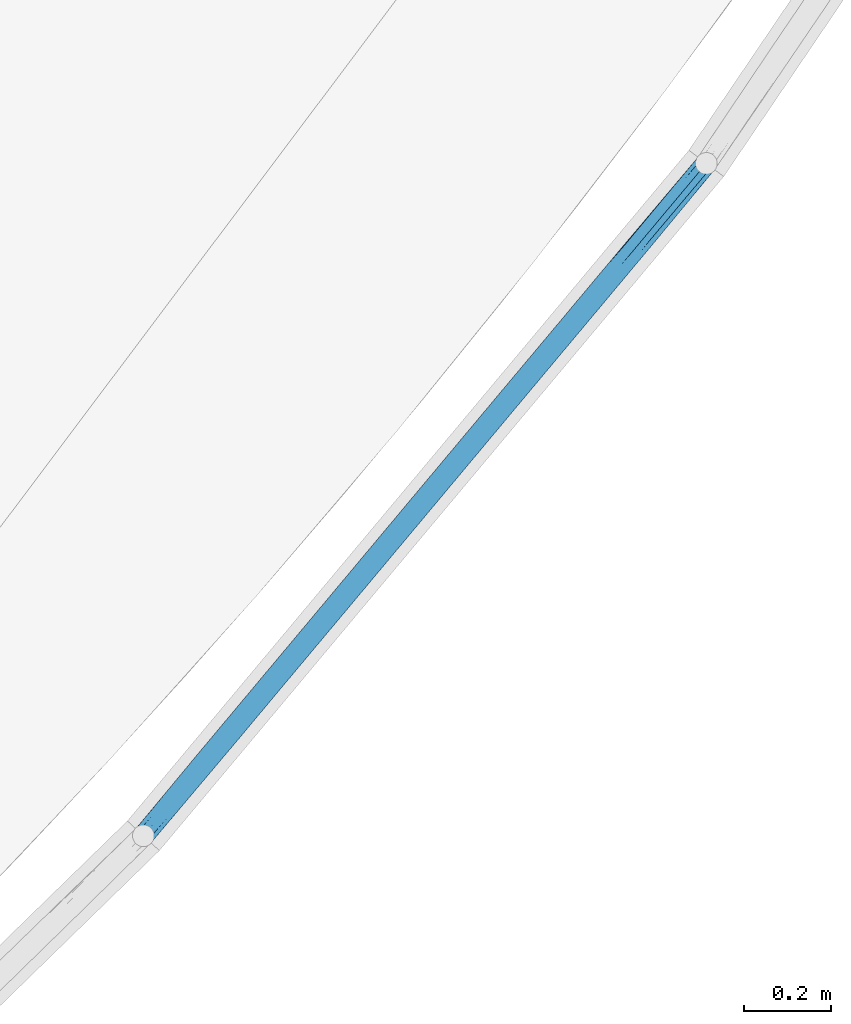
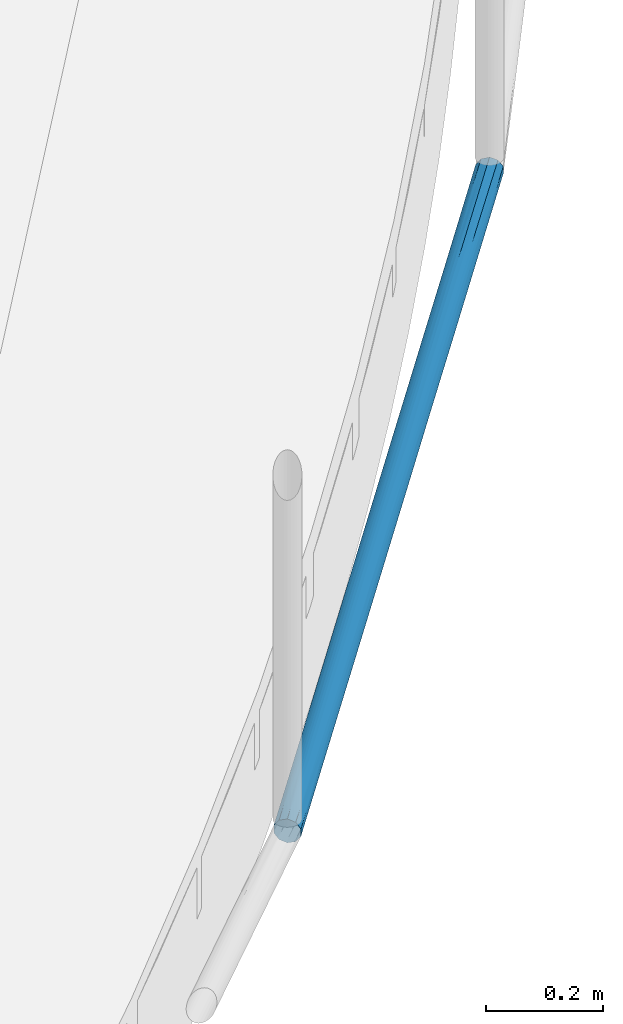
# One storey, part 26 of 33: 1 member, 1 element without a shape of its own.
"""IFC2X3 building model written with IfcOpenShell, lengths in metres."""

from ifc_helpers import new_model, entity, si_unit, converted_unit, derived_unit, direction, frame, origin, place, context, subcontext, project, spatial, faceted_brep, source, transform, mapped, material, type_object, type_shapes, element, aggregate, save


model = new_model("IFC2X3")

# Units and contexts
model_context = context("Model", 3, precision=1e-05, world=origin(), true_north=direction((6.123031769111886e-17, 1.0)))
body_context = subcontext(model_context, "Body", "Model", "MODEL_VIEW")
ifc_project = project(units=[si_unit("LENGTHUNIT", "METRE"), si_unit("AREAUNIT", "SQUARE_METRE"), si_unit("VOLUMEUNIT", "CUBIC_METRE"), converted_unit("PLANEANGLEUNIT", "DEGREE", entity("IfcRatioMeasure", 0.017453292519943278), si_unit("PLANEANGLEUNIT", "RADIAN"), dimensions=[0, 0, 0, 0, 0, 0, 0]), si_unit("MASSUNIT", "GRAM", prefix="KILO"), derived_unit("MASSDENSITYUNIT", [(si_unit("MASSUNIT", "GRAM", prefix="KILO"), 1), (si_unit("LENGTHUNIT", "METRE"), -3)]), derived_unit("IONCONCENTRATIONUNIT", [(si_unit("MASSUNIT", "GRAM", prefix="KILO"), 1), (si_unit("LENGTHUNIT", "METRE"), -3)]), derived_unit("MOMENTOFINERTIAUNIT", [(si_unit("LENGTHUNIT", "METRE"), 4)]), si_unit("TIMEUNIT", "SECOND"), si_unit("FREQUENCYUNIT", "HERTZ"), si_unit("THERMODYNAMICTEMPERATUREUNIT", "DEGREE_CELSIUS"), derived_unit("THERMALTRANSMITTANCEUNIT", [(si_unit("MASSUNIT", "GRAM", prefix="KILO"), 1), (si_unit("THERMODYNAMICTEMPERATUREUNIT", "KELVIN"), -1), (si_unit("TIMEUNIT", "SECOND"), -3)]), derived_unit("THERMALCONDUCTANCEUNIT", [(si_unit("MASSUNIT", "GRAM", prefix="KILO"), 1), (si_unit("THERMODYNAMICTEMPERATUREUNIT", "KELVIN"), -1), (si_unit("TIMEUNIT", "SECOND"), -3), (si_unit("LENGTHUNIT", "METRE"), 1)]), derived_unit("VOLUMETRICFLOWRATEUNIT", [(si_unit("LENGTHUNIT", "METRE"), 3), (si_unit("TIMEUNIT", "SECOND"), -1)]), derived_unit("MASSFLOWRATEUNIT", [(si_unit("MASSUNIT", "GRAM", prefix="KILO"), 1), (si_unit("TIMEUNIT", "SECOND"), -1)]), derived_unit("ROTATIONALFREQUENCYUNIT", [(si_unit("TIMEUNIT", "SECOND"), -1)]), si_unit("ELECTRICCURRENTUNIT", "AMPERE"), si_unit("ELECTRICVOLTAGEUNIT", "VOLT"), si_unit("POWERUNIT", "WATT"), si_unit("FORCEUNIT", "NEWTON", prefix="KILO"), si_unit("ILLUMINANCEUNIT", "LUX"), si_unit("LUMINOUSFLUXUNIT", "LUMEN"), si_unit("LUMINOUSINTENSITYUNIT", "CANDELA"), derived_unit("USERDEFINED", [(si_unit("MASSUNIT", "GRAM", prefix="KILO"), -1), (si_unit("LENGTHUNIT", "METRE"), -2), (si_unit("TIMEUNIT", "SECOND"), 3), (si_unit("LUMINOUSFLUXUNIT", "LUMEN"), 1)]), derived_unit("USERDEFINED", [(si_unit("MASSUNIT", "GRAM", prefix="KILO"), 1), (si_unit("TIMEUNIT", "SECOND"), -3), (si_unit("LENGTHUNIT", "METRE"), 3), (si_unit("ELECTRICCURRENTUNIT", "AMPERE"), -2)]), derived_unit("SOUNDPOWERUNIT", [(si_unit("MASSUNIT", "GRAM", prefix="KILO"), 1), (si_unit("TIMEUNIT", "SECOND"), -3), (si_unit("LENGTHUNIT", "METRE"), 2)]), derived_unit("SOUNDPRESSUREUNIT", [(si_unit("MASSUNIT", "GRAM", prefix="KILO"), 1), (si_unit("LENGTHUNIT", "METRE"), -1), (si_unit("TIMEUNIT", "SECOND"), -2)]), derived_unit("LINEARVELOCITYUNIT", [(si_unit("LENGTHUNIT", "METRE"), 1), (si_unit("TIMEUNIT", "SECOND"), -1)]), si_unit("PRESSUREUNIT", "PASCAL"), derived_unit("USERDEFINED", [(si_unit("MASSUNIT", "GRAM", prefix="KILO"), 1), (si_unit("LENGTHUNIT", "METRE"), -2), (si_unit("TIMEUNIT", "SECOND"), -2)]), derived_unit("LINEARFORCEUNIT", [(si_unit("MASSUNIT", "GRAM", prefix="KILO"), 1), (si_unit("TIMEUNIT", "SECOND"), -2)]), derived_unit("PLANARFORCEUNIT", [(si_unit("MASSUNIT", "GRAM", prefix="KILO"), 1), (si_unit("LENGTHUNIT", "METRE"), -1), (si_unit("TIMEUNIT", "SECOND"), -2)]), derived_unit("SPECIFICHEATCAPACITYUNIT", [(si_unit("THERMODYNAMICTEMPERATUREUNIT", "KELVIN"), -1), (si_unit("LENGTHUNIT", "METRE"), 2), (si_unit("TIMEUNIT", "SECOND"), -2)]), derived_unit("HEATINGVALUEUNIT", [(si_unit("LENGTHUNIT", "METRE"), 2), (si_unit("TIMEUNIT", "SECOND"), -2)]), derived_unit("VAPORPERMEABILITYUNIT", [(si_unit("LENGTHUNIT", "METRE"), -1), (si_unit("TIMEUNIT", "SECOND"), 1)]), derived_unit("DYNAMICVISCOSITYUNIT", [(si_unit("MASSUNIT", "GRAM", prefix="KILO"), 1), (si_unit("TIMEUNIT", "SECOND"), -1), (si_unit("LENGTHUNIT", "METRE"), -1)]), derived_unit("THERMALEXPANSIONCOEFFICIENTUNIT", [(si_unit("THERMODYNAMICTEMPERATUREUNIT", "KELVIN"), -1)]), derived_unit("MODULUSOFELASTICITYUNIT", [(si_unit("MASSUNIT", "GRAM", prefix="KILO"), 1), (si_unit("LENGTHUNIT", "METRE"), -1), (si_unit("TIMEUNIT", "SECOND"), -2)]), derived_unit("ISOTHERMALMOISTURECAPACITYUNIT", [(si_unit("LENGTHUNIT", "METRE"), 3), (si_unit("MASSUNIT", "GRAM", prefix="KILO"), -1)]), derived_unit("MOISTUREDIFFUSIVITYUNIT", [(si_unit("TIMEUNIT", "SECOND"), -1), (si_unit("LENGTHUNIT", "METRE"), 2)])], contexts=[model_context])

# Site, building, storey
site_placement = place(None, origin())
site = spatial("IfcSite", under=ifc_project, at=site_placement, Name="Superficie", CompositionType="ELEMENT")
building_placement = place(site_placement, frame((0.0, 0.0, 235.0), z_axis=(0.0, 0.0, 1.0), x_axis=(-0.7996477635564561, 0.6004693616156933, 0.0)))
building = spatial("IfcBuilding", under=site, at=building_placement, CompositionType="ELEMENT")
storey_placement = place(building_placement, origin())
storey = spatial("IfcBuildingStorey", under=building, at=storey_placement, Name="P0- Escola", CompositionType="ELEMENT", Elevation=0.0)

# Curtain wall, member
curtain_wall_type = type_object("IfcCurtainWallType", Name="Muro cortina:SER EXT- Tanca exterior", PredefinedType="NOTDEFINED")
curtain_wall_placement = place(storey_placement, origin())
curtain_wall = element("IfcCurtainWall", 1, at=curtain_wall_placement, inside=storey, type_object=curtain_wall_type, Name="Muro cortina:SER EXT- Tanca exterior", ObjectType="Muro cortina:SER EXT- Tanca exterior")
ifc_material = material(Name="Acero inoxidable")
member_type = type_object("IfcMemberType", Name="Montante circular:Perfil Tanca exterior", PredefinedType="MULLION", material=ifc_material)
shared_shape = source(origin(), body_context, "Body", "Brep", [
    faceted_brep([(-0.008847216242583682, 0.019081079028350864, -0.2267325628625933), (-0.010298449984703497, 0.020220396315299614, -0.493251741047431), (-0.013646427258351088, 0.022273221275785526, -0.24722914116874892), (-0.046386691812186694, 0.01294640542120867, -1.7763628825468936), (-0.044858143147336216, 0.01518730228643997, -1.5519656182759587), (-0.04268069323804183, 0.017674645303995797, -1.7624670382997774), (-0.03403860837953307, 0.023308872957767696, -1.3777322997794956), (-0.02783377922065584, 0.024838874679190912, -1.520863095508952), (-0.03409127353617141, 0.023288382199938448, -1.6958092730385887), (-0.028484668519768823, 0.02475595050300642, -1.2566667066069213), (-0.022081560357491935, 0.024829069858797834, -1.3632108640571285), (-0.01859319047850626, 0.02416511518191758, -1.1148496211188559), (-0.025000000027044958, 0.025, -1.0047328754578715), (-0.019090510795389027, 0.024291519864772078, -0.7889059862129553), (-0.028756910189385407, 0.024716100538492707, -0.5280420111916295), (-0.029397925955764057, 0.024610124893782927, -0.8002571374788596), (-0.03459637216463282, 0.023084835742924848, -0.6419632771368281), (-0.0004908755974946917, 0.004929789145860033, -0.7602768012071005), (0.0, 0.0, -0.5237549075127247), (0.0, 0.0, -0.6127839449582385), (0.0, 0.0, -0.6983405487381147), (-0.048129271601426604, 0.009488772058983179, -0.6764416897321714), (-0.04544032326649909, 0.014394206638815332, -0.7602698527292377), (-0.04768058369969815, 0.010516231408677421, -0.9082537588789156), (-0.004774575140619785, 0.014694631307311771, -2.0087200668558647), (-0.0028689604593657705, 0.011628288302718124, -1.7262049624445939), (-0.002582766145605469, 0.007948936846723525, -2.0090623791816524), (-0.014779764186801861, 0.02281549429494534, -0.924713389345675), (-0.014521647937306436, 0.022698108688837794, -0.711291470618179), (-0.010535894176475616, 0.020390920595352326, -0.8101259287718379), (-0.00731971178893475, 0.017675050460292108, -1.7954389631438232), (-0.01727457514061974, 0.023776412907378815, -2.0082592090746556), (-0.021089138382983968, 0.024692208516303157, -1.7119525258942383), (-0.01682191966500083, 0.02362454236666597, -1.8054782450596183), (-0.041018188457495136, 0.01919420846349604, -0.2562594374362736), (-0.04443479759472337, 0.015725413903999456, -0.2807873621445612), (-0.04522542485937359, 0.01469463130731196, -0.0007456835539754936), (-0.047131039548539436, 0.011628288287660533, -0.2832607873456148), (-0.04741723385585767, 0.007948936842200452, -0.0004033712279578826), (-0.00046455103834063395, 0.004797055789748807, -0.9733185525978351), (0.0, 0.0, -0.9619546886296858), (0.0, 0.0, -1.047511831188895), (-0.03868978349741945, 0.020918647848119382, -1.7251704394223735), (-0.0389754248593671, 0.019235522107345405, -2.00848963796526), (-0.04999999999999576, 0.0, -1.3111179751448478), (-0.04948618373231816, 0.005042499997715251, -1.259607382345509), (-0.0499999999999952, 0.0, -1.485702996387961), (-0.0018707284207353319, 0.009488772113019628, -1.3330240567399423), (-0.004463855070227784, 0.014257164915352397, -1.2402981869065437), (-0.002206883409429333, 0.010270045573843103, -1.101577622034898), (-0.03970155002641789, 0.020220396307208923, -1.5162140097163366), (-0.039108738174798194, 0.02063839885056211, -1.1929753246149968), (-0.011024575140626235, 0.019235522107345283, -0.0009761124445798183), (-0.0263505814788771, 0.024963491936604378, -0.27217032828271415), (-0.034540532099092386, 0.023107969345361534, -0.31665724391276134), (-0.032725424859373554, 0.023776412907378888, -0.0012065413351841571), (-0.0495543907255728, 0.004699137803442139, -1.0451808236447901), (-0.04453905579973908, 0.015595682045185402, -1.3022901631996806), (-0.017274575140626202, 0.023776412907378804, -0.001206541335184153), (-0.019693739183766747, 0.024430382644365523, -0.24490459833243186), (-0.038056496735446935, 0.021319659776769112, -0.9140673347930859), (-0.04153701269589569, 0.018749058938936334, -0.7147147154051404), (-0.024999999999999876, 0.02377641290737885, -0.001206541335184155), (-0.01540362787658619, 0.0230848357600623, -1.3675024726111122), (-0.02826658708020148, 0.024785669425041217, -1.7828225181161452), (-0.012047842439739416, 0.02138320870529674, -1.1183925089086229), (-0.008247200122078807, 0.018556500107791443, -1.2943112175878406), (-0.04947504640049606, 0.005096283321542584, -0.8345024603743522), (-0.04958403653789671, 0.004541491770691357, -0.6454396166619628), (-0.039028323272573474, 0.02069314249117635, -0.5000550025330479), (-0.049999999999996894, 0.0, -0.961947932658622), (-0.046712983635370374, 0.012391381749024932, -0.5006560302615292), (-0.04937917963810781, 0.0055367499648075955, -0.4595879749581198), (-0.049388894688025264, 0.005493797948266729, -0.21390989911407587), (-0.0436016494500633, 0.016702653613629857, -0.4756555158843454), (-0.049999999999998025, 0.0, -0.6127778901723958), (-0.04999999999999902, 0.0, -0.3063889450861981), (-0.05, 0.0, 0.0), (-0.048266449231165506, 0.009147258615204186, -1.1365396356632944), (-0.04604490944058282, 0.013494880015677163, -1.068064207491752), (-0.048350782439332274, 0.008929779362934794, -1.8259299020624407), (-0.048393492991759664, 0.008817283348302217, -1.6159233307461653), (-0.04999999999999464, 0.0, -1.6602880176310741), (-0.04962841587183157, 0.004294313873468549, -1.573002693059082), (-0.049595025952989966, 0.004481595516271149, -1.8126800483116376), (-0.0004899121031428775, 0.0049249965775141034, -1.185027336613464), (-0.0003992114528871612, 0.004449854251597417, -1.3697589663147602), (-0.012852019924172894, 0.021850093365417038, -1.70803919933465), (-0.010662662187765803, 0.020480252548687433, -1.4953147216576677), (-0.0032870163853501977, 0.012391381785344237, -1.5088097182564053), (-0.0063983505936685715, 0.016702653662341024, -1.533810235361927), (-0.0006208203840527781, 0.005536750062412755, -1.5498777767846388), (-0.0006111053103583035, 0.00549379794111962, -1.795555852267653), (-0.003906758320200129, 0.013419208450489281, -0.9495345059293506), (-0.00647434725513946, 0.016786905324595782, -0.8445142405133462), (-0.005036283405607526, 0.01504825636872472, -0.6634532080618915), (0.0, 0.0, -1.3966821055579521), (0.0, 0.0, -1.6602961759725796), (0.0, 0.0, -1.7030734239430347), (0.0, 0.0, -2.00946575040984), (-0.005361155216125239, 0.015469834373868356, -0.3454079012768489), (-0.0016065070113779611, 0.008817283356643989, -0.393542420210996), (-0.001956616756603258, 0.009695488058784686, -0.6322768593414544), (-0.0017335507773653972, 0.009147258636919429, -0.872926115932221), (0.0, 0.0, -0.34917027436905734), (-0.00037158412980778, 0.0042943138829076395, -0.4364630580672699), (-0.0004049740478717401, 0.0044815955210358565, -0.19678570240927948), (-0.04330621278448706, 0.0170259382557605, -0.9619544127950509), (-0.032670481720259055, 0.02379419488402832, -1.058420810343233), (-0.024999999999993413, 0.02377641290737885, -2.0082592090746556), (-0.033992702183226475, 0.023326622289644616, -0.8406193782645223), (-0.045225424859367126, 0.014694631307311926, -2.0087200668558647), (-0.03272542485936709, 0.023776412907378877, -2.0082592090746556), (-0.01687627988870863, 0.023643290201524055, -1.5881597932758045), (-0.011024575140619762, 0.01923552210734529, -2.00848963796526), (-0.024286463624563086, 0.02498981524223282, -0.7036050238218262), (-0.01593332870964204, 0.0232979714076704, -0.4909271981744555), (-0.02216622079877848, 0.024838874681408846, -0.4886026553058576), (-0.006693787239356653, 0.017025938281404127, -1.047511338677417), (-0.0017561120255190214, 0.009204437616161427, -0.19201933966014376), (-0.004774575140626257, 0.014694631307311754, -0.0007456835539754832), (0.0, 0.0, -1.3111254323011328), (-0.038975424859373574, 0.019235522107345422, -0.0009761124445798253), (-0.0023872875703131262, 0.007347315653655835, -0.0003728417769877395), (0.0, 0.0, 0.0), (0.0, 0.0, -0.30639197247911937), (-0.04791906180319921, 0.009985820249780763, -1.3775822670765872), (-0.047612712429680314, 0.007347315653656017, -2.0090929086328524), (-0.04999999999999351, 0.0, -2.00946575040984), (-0.04999999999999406, 0.0, -1.8348805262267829), (-0.0363459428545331, -0.022277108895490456, -1.7638357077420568), (-0.0405394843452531, -0.01958377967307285, -1.7217530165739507), (-0.03897542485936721, -0.01923552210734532, -2.01044186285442), (-0.04939838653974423, -0.0054514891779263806, -1.1365396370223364), (-0.04688639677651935, -0.012082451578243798, -1.112978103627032), (-0.04860951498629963, -0.008221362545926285, -0.8768124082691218), (-0.0396876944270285, -0.020230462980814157, -1.5169991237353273), (-0.043306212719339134, -0.017025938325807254, -0.9619544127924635), (-0.038532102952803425, -0.021020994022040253, -0.8811408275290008), (-0.04249504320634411, -0.017858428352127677, -0.6661643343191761), (-0.0460580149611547, -0.013474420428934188, -0.7803462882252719), (-0.042572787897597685, -0.017781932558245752, -0.38905934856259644), (-0.04639102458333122, -0.012939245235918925, -0.49978200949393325), (-0.03090130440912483, -0.02429350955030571, -1.2905971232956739), (-0.0351126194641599, -0.022863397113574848, -1.0974327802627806), (-0.03691588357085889, -0.021977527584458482, -1.3207225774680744), (-0.04761271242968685, -0.00734731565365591, 0.00037284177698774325), (-0.04890453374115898, -0.007319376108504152, -0.3284992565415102), (-0.04584441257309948, -0.01380255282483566, -0.24929059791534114), (-0.02108913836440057, -0.02469220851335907, -0.22439130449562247), (-0.026827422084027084, -0.02493312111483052, -0.22307060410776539), (-0.024999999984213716, -0.025, -0.44998915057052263), (-0.049298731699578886, -0.005879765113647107, -1.3932665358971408), (-0.04932616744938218, -0.005765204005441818, -1.6337480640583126), (-0.03970848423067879, -0.020215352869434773, -1.143584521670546), (-0.04307243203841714, -0.01727388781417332, -1.2701073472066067), (-0.017274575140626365, -0.023776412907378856, 0.0012065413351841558), (-0.014731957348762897, -0.022794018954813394, -0.2494694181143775), (-0.011024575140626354, -0.019235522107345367, 0.0009761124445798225), (-0.002387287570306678, -0.007347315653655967, -2.0098385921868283), (-0.0009402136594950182, -0.006791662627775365, -1.7416704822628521), (-0.0035229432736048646, -0.012795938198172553, -1.7727559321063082), (-0.0016792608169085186, -0.009007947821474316, -1.209996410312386), (-0.005667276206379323, -0.015850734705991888, -1.3022291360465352), (-0.0024490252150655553, -0.010791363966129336, -1.5353004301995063), (-0.0021428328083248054, -0.010126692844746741, -0.25553970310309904), (-0.003608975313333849, -0.01293924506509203, -0.49978200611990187), (-0.0008185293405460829, -0.006344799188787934, -0.4780100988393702), (-0.047747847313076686, -0.01036992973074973, -1.7865251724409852), (-0.04412108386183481, -0.01610540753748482, -1.6814682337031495), (-0.04755097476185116, -0.010791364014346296, -1.5353004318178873), (-0.018424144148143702, -0.024119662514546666, -0.4750672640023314), (-0.031400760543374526, -0.024166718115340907, -0.8107305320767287), (-0.035785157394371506, -0.02255394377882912, -0.7022908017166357), (-0.011024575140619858, -0.019235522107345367, -2.01044186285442), (-0.007325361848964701, -0.01768070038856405, -1.7636052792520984), (-0.014254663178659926, -0.02257294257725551, -1.7458684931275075), (-0.025828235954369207, -0.02498627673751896, -1.7012425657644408), (-0.020125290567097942, -0.024520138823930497, -1.5222383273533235), (-0.027784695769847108, -0.02484442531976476, -1.522686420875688), (-0.001390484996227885, -0.008221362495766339, -0.8768124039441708), (-0.0007668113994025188, -0.006144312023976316, -0.6872838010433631), (-0.0025109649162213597, -0.010919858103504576, -0.6955971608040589), (-0.010312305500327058, -0.02023046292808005, -1.5169991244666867), (-0.01555292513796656, -0.02314633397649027, -1.5055429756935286), (-0.014832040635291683, -0.02283883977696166, -1.3037750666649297), (-0.01951428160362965, -0.024390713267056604, -1.326718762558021), (-0.034035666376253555, -0.02331001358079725, -1.5198427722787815), (-0.030282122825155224, -0.02443561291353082, -1.7666793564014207), (-0.024999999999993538, -0.023776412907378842, -2.010672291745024), (-0.021089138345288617, -0.0246922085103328, -1.7152867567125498), (-0.04761271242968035, -0.0073473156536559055, -2.0098385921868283), (-0.049271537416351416, -0.005991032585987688, -1.8289788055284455), (-0.006082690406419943, -0.01634427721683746, -1.5382526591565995), (-0.0004651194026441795, -0.004799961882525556, -1.2947736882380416), (-0.00047669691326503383, -0.004858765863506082, -1.4939076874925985), (-0.038536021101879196, -0.021018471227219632, -0.24793199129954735), (-0.03768859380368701, -0.021540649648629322, -0.5001453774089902), (-0.01762039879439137, -0.023886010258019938, -1.1298319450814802), (-0.038975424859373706, -0.019235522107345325, 0.0009761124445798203), (-0.042616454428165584, -0.017738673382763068, -0.16212038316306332), (-0.015717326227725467, -0.023212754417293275, -0.6985568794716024), (-0.022269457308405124, -0.02485043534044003, -0.7273610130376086), (-0.02003572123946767, -0.024502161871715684, -0.9406925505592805), (-0.0072321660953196, -0.01758704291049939, -0.49702918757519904), (-0.009964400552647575, -0.019973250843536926, -0.7520023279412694), (-0.005534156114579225, -0.01568696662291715, -0.7160081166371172), (-0.0036605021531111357, -0.013024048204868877, -0.8893917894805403), (-0.0004795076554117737, -0.004872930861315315, -1.0673606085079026), (-0.04766282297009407, -0.010554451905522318, -1.3184012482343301), (-0.04340380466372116, -0.016920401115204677, -1.4777255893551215), (-0.0452254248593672, -0.014694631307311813, -2.010211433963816), (-0.032725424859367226, -0.023776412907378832, -2.010672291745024), (-0.017274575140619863, -0.023776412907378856, -2.010672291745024), (-0.03005245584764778, -0.024484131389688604, -1.073455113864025), (-0.02521751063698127, -0.024999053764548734, -1.3108650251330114), (-0.02499999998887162, -0.025, -1.0047328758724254), (-0.011049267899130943, -0.02074553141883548, -1.2032467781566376), (-0.01231140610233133, -0.021540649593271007, -0.5001453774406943), (-0.02725403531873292, -0.02489817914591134, -0.6965477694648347), (-0.03189077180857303, -0.024031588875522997, -0.3285521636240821), (-0.031170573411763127, -0.024226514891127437, -0.5687655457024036), (-0.04891524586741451, -0.007284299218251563, -0.6041500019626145), (-0.0452254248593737, -0.01469463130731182, 0.0007456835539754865), (-0.03272542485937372, -0.023776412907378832, 0.0012065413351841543), (-0.025000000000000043, -0.023776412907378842, 0.001206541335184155), (-0.004774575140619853, -0.014694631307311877, -2.010211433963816), (-0.004181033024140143, -0.01384090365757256, -1.1066808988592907), (-0.006693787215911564, -0.01702593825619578, -0.9619544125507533), (-0.010588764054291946, -0.02042832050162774, -0.9897676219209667), (-0.015054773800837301, -0.02293670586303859, -0.9492634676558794), (-0.008924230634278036, -0.019146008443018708, -0.2734639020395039), (-0.004774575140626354, -0.014694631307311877, 0.0007456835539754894), (-0.00500479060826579, -0.015006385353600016, -0.2880824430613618), (-0.002387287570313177, -0.007347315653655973, 0.0003728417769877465), (-0.000493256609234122, -0.004941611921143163, -0.1982912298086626)], [[[0, 1, 2]], [[3, 4, 5]], [[6, 7, 8]], [[7, 9, 10]], [[11, 12, 13]], [[14, 15, 16]], [[17, 18, 19, 20]], [[21, 22, 23]], [[24, 25, 26]], [[27, 28, 29]], [[25, 24, 30]], [[31, 32, 33]], [[34, 35, 36]], [[36, 37, 38]], [[39, 20, 40, 41]], [[42, 43, 5]], [[44, 45, 46]], [[47, 48, 49]], [[50, 51, 6]], [[0, 2, 52]], [[17, 20, 39]], [[53, 54, 55]], [[45, 44, 56]], [[50, 57, 51]], [[9, 7, 6]], [[58, 2, 59]], [[60, 61, 16]], [[62, 58, 59]], [[10, 11, 63]], [[7, 64, 8]], [[65, 66, 63]], [[10, 32, 7]], [[21, 67, 68]], [[54, 69, 34]], [[56, 44, 70]], [[37, 35, 71]], [[37, 72, 73]], [[22, 74, 61]], [[23, 67, 21]], [[72, 75, 76]], [[38, 73, 77]], [[72, 68, 75]], [[78, 23, 79]], [[3, 80, 81]], [[82, 83, 84]], [[47, 85, 86]], [[87, 88, 30]], [[85, 47, 49]], [[89, 25, 90]], [[25, 91, 92]], [[48, 90, 66]], [[93, 94, 95]], [[91, 96, 97, 98]], [[26, 92, 99]], [[91, 86, 96]], [[100, 101, 102]], [[49, 93, 103]], [[104, 105, 106]], [[73, 72, 76]], [[71, 72, 37]], [[92, 91, 98]], [[89, 91, 25]], [[77, 73, 76]], [[37, 73, 38]], [[99, 92, 98]], [[25, 92, 26]], [[51, 57, 107]], [[50, 5, 4]], [[51, 60, 108]], [[9, 6, 108]], [[6, 51, 108]], [[109, 64, 32]], [[60, 51, 107]], [[60, 110, 108]], [[43, 111, 5]], [[50, 6, 8]], [[112, 43, 42]], [[3, 5, 111]], [[42, 5, 50]], [[109, 32, 31]], [[8, 64, 112]], [[33, 113, 87]], [[90, 88, 66]], [[108, 12, 9]], [[114, 30, 24]], [[31, 33, 114]], [[12, 11, 10]], [[12, 10, 9]], [[10, 63, 113]], [[12, 15, 115]], [[65, 63, 11]], [[116, 117, 59]], [[65, 29, 118]], [[27, 11, 13]], [[66, 65, 118]], [[27, 29, 65]], [[29, 1, 95]], [[100, 95, 1]], [[101, 119, 106]], [[58, 52, 2]], [[119, 100, 120]], [[116, 2, 1]], [[100, 0, 120]], [[2, 116, 59]], [[48, 66, 118]], [[30, 88, 90]], [[93, 49, 48]], [[48, 47, 89]], [[93, 48, 118]], [[85, 39, 41]], [[39, 49, 103]], [[85, 41, 121, 96]], [[113, 88, 87]], [[63, 66, 88]], [[94, 93, 118]], [[95, 103, 93]], [[118, 29, 94]], [[29, 95, 94]], [[28, 1, 29]], [[13, 117, 116]], [[53, 59, 117]], [[62, 59, 53]], [[14, 53, 117]], [[14, 54, 53]], [[55, 62, 53]], [[117, 13, 115]], [[14, 16, 54]], [[61, 69, 16]], [[14, 117, 115]], [[34, 36, 122]], [[122, 55, 54]], [[108, 15, 12]], [[61, 60, 107]], [[15, 110, 16]], [[22, 61, 107]], [[61, 74, 69]], [[34, 69, 74]], [[54, 16, 69]], [[34, 74, 35]], [[54, 34, 122]], [[79, 23, 22]], [[22, 21, 71]], [[79, 22, 107]], [[67, 56, 70]], [[56, 23, 78]], [[75, 67, 70]], [[107, 57, 79]], [[57, 78, 79]], [[49, 39, 85]], [[39, 103, 17]], [[102, 17, 103]], [[105, 18, 17]], [[103, 95, 102]], [[100, 102, 95]], [[102, 101, 105]], [[17, 102, 105]], [[104, 18, 105]], [[119, 123, 106]], [[101, 106, 105]], [[106, 124, 125, 104]], [[124, 106, 123]], [[23, 56, 67]], [[56, 78, 45]], [[126, 45, 78]], [[45, 83, 46]], [[78, 57, 126]], [[126, 57, 4]], [[83, 126, 81]], [[45, 126, 83]], [[82, 46, 83]], [[127, 84, 80]], [[81, 84, 83]], [[84, 128, 129, 82]], [[128, 84, 127]], [[80, 111, 127]], [[81, 126, 4]], [[4, 3, 81]], [[50, 4, 57]], [[100, 119, 101]], [[120, 123, 119]], [[32, 64, 7]], [[112, 64, 109]], [[87, 30, 114]], [[25, 30, 90]], [[120, 0, 52]], [[1, 0, 100]], [[22, 71, 74]], [[72, 71, 21]], [[48, 89, 90]], [[91, 89, 47]], [[50, 8, 42]], [[42, 8, 112]], [[113, 33, 32]], [[114, 33, 87]], [[10, 113, 32]], [[88, 113, 63]], [[11, 27, 65]], [[28, 27, 13]], [[13, 116, 28]], [[1, 28, 116]], [[47, 86, 91]], [[85, 96, 86]], [[12, 115, 13]], [[14, 115, 15]], [[108, 110, 15]], [[60, 16, 110]], [[71, 35, 74]], [[36, 35, 37]], [[21, 68, 72]], [[67, 75, 68]], [[81, 80, 84]], [[111, 80, 3]], [[130, 131, 132]], [[133, 134, 135]], [[136, 131, 130]], [[137, 138, 139]], [[137, 139, 140]], [[139, 141, 142]], [[143, 144, 145]], [[146, 147, 148]], [[149, 150, 151]], [[152, 82, 153]], [[154, 155, 145]], [[156, 157, 158]], [[149, 157, 156]], [[159, 160, 161]], [[162, 163, 164]], [[165, 166, 167]], [[168, 169, 170]], [[149, 171, 157]], [[138, 172, 173]], [[174, 175, 176]], [[177, 178, 179]], [[180, 181, 182]], [[176, 175, 183]], [[184, 185, 186]], [[179, 187, 188]], [[177, 189, 190]], [[134, 155, 137]], [[191, 192, 128]], [[193, 161, 164]], [[194, 164, 195]], [[196, 141, 197]], [[186, 185, 198]], [[196, 199, 200]], [[137, 154, 138]], [[201, 202, 203]], [[204, 205, 206]], [[142, 141, 148]], [[148, 147, 142]], [[207, 182, 206]], [[166, 182, 167]], [[135, 75, 70]], [[135, 70, 133]], [[193, 183, 175]], [[208, 194, 121]], [[44, 152, 133]], [[133, 70, 44]], [[134, 137, 140]], [[209, 133, 152]], [[169, 210, 170]], [[155, 134, 209]], [[130, 187, 136]], [[145, 155, 136]], [[172, 138, 144]], [[153, 170, 152]], [[209, 152, 170]], [[152, 44, 46, 82]], [[168, 192, 191]], [[170, 153, 168]], [[192, 168, 153]], [[191, 211, 168]], [[131, 210, 169]], [[168, 211, 169]], [[211, 132, 131]], [[132, 212, 130]], [[82, 129, 128, 192]], [[188, 130, 212]], [[130, 188, 187]], [[188, 212, 189]], [[190, 189, 213]], [[213, 176, 190]], [[188, 177, 179]], [[214, 215, 216]], [[184, 190, 176]], [[183, 163, 217]], [[218, 201, 205]], [[201, 218, 171]], [[143, 187, 179]], [[145, 136, 187]], [[215, 143, 179]], [[214, 144, 143]], [[143, 145, 187]], [[145, 144, 154]], [[138, 154, 144]], [[137, 155, 154]], [[144, 214, 172]], [[138, 173, 139]], [[219, 216, 202]], [[220, 197, 221]], [[141, 139, 197]], [[142, 222, 140]], [[196, 197, 220]], [[141, 200, 148]], [[146, 76, 147]], [[200, 223, 148]], [[142, 147, 222]], [[146, 77, 76]], [[135, 140, 222]], [[148, 223, 146]], [[75, 147, 76]], [[221, 197, 173]], [[224, 199, 196]], [[149, 156, 225]], [[224, 196, 220]], [[147, 75, 222]], [[220, 150, 224]], [[75, 135, 222]], [[178, 215, 179]], [[215, 186, 198]], [[196, 200, 141]], [[223, 200, 199]], [[226, 175, 174]], [[184, 176, 183]], [[176, 213, 174]], [[161, 175, 226]], [[183, 193, 163]], [[142, 140, 139]], [[134, 140, 135]], [[161, 226, 159]], [[160, 99, 98, 97]], [[160, 164, 161]], [[164, 160, 195]], [[99, 160, 159]], [[195, 160, 97]], [[195, 97, 96, 121]], [[181, 40, 20, 19]], [[121, 194, 195]], [[180, 207, 227]], [[228, 227, 207]], [[217, 229, 230]], [[228, 217, 163]], [[198, 185, 217]], [[150, 149, 225]], [[171, 149, 151]], [[171, 151, 202]], [[157, 171, 218]], [[151, 221, 219]], [[203, 216, 198]], [[231, 157, 218]], [[157, 231, 158]], [[166, 204, 206]], [[158, 231, 232]], [[233, 166, 165]], [[202, 201, 171]], [[230, 229, 205]], [[230, 205, 201]], [[206, 205, 228]], [[207, 206, 228]], [[233, 204, 166]], [[231, 218, 204]], [[205, 204, 218]], [[228, 163, 227]], [[182, 207, 180]], [[163, 162, 227]], [[180, 227, 162]], [[182, 181, 167]], [[206, 182, 166]], [[167, 19, 18, 104, 125]], [[234, 235, 124]], [[234, 165, 235]], [[232, 231, 233]], [[181, 180, 40]], [[19, 167, 181]], [[235, 167, 125]], [[232, 165, 234]], [[224, 150, 225]], [[151, 150, 220]], [[232, 233, 165]], [[204, 233, 231]], [[209, 170, 210]], [[133, 209, 134]], [[185, 183, 217]], [[178, 184, 186]], [[194, 208, 162]], [[167, 235, 165]], [[124, 235, 125]], [[215, 214, 143]], [[172, 214, 216]], [[183, 185, 184]], [[198, 217, 230]], [[203, 198, 230]], [[215, 198, 216]], [[201, 203, 230]], [[202, 216, 203]], [[161, 193, 175]], [[164, 163, 193]], [[178, 186, 215]], [[190, 184, 178]], [[136, 155, 210]], [[210, 155, 209]], [[82, 192, 153]], [[210, 131, 136]], [[131, 169, 211]], [[189, 177, 188]], [[178, 177, 190]], [[173, 172, 221]], [[139, 173, 197]], [[219, 221, 172]], [[151, 220, 221]], [[216, 219, 172]], [[151, 219, 202]], [[208, 121, 41, 40]], [[164, 194, 162]], [[40, 180, 208]], [[180, 162, 208]], [[217, 228, 229]], [[205, 229, 228]], [[156, 158, 232, 234, 124, 123, 120, 52, 58, 62, 55, 122, 36, 38, 77, 146, 223, 199, 224, 225]], [[226, 174, 213, 189, 212, 132, 211, 191, 128, 127, 111, 43, 112, 109, 31, 114, 24, 26, 99, 159]]]),
])
type_shapes(member_type, [shared_shape])
member_placement = place(curtain_wall_placement, frame((-12.057894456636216, -46.849210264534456, -4.674999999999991), z_axis=(-0.05289791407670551, -0.9985999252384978, 0.0), x_axis=(0.0, 0.0, -1.0)))
member = element("IfcMember", 2, at=member_placement, type_object=member_type, material=ifc_material, Name="Montante circular:Perfil Tanca exterior", ObjectType="Montante circular:Perfil Tanca exterior", context=body_context, shape_type="MappedRepresentation", body=[
    mapped(shared_shape, transform((0.0, 0.0, 0.0), scale=1.0)),
])
aggregate(curtain_wall, [member])

save(model, "model.ifc")
